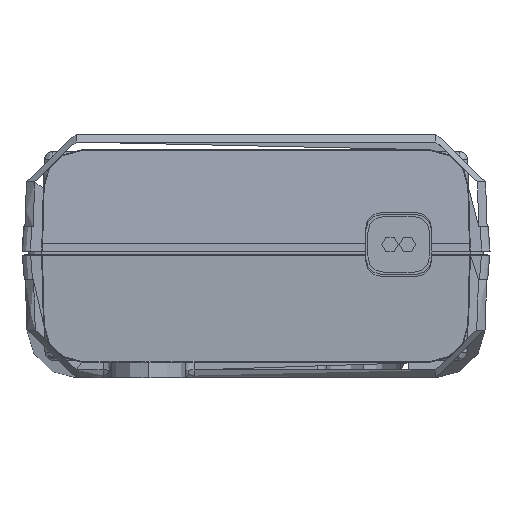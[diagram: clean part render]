
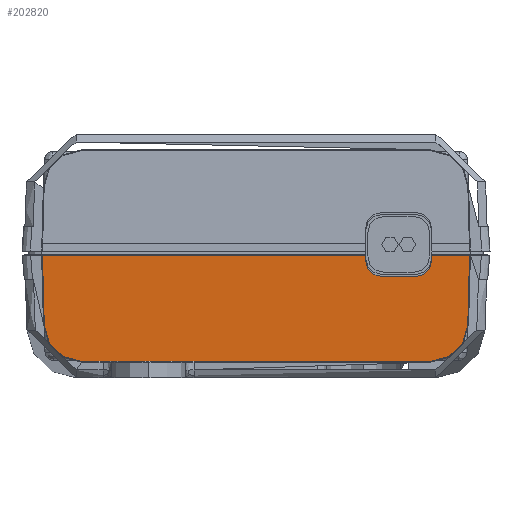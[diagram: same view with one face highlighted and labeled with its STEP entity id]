
A CAD part, left-side view. The second image highlights one B-rep face of the part: STEP entity #202820.
In plain terms, the highlighted planar face has unit normal (-0.999, 0, -0.035).
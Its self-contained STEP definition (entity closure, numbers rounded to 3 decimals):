
#187600=CARTESIAN_POINT('',(45.28,52.802,
13.55));
#187610=VERTEX_POINT('',#187600);
#188010=CARTESIAN_POINT('',(45.234,52.802,14.85));
#188020=VERTEX_POINT('',#188010);
#188050=CARTESIAN_POINT('',(45.753,52.802,0.));
#188060=DIRECTION('',(-0.035,0.,
0.999));
#188070=VECTOR('',#188060,1.);
#188080=LINE('',#188050,#188070);
#188090=EDGE_CURVE('',#187610,#188020,#188080,.T.);
#192510=CARTESIAN_POINT('',(45.683,95.036,2.));
#192520=VERTEX_POINT('',#192510);
#192550=CARTESIAN_POINT('',(45.683,0.,2.));
#192560=DIRECTION('',(0.,-1.,0.));
#192570=VECTOR('',#192560,1.);
#192580=LINE('',#192550,#192570);
#192590=CARTESIAN_POINT('',(45.683,52.804,2.));
#192600=VERTEX_POINT('',#192590);
#192610=EDGE_CURVE('',#192520,#192600,#192580,.T.);
#197720=CARTESIAN_POINT('',(45.234,60.502,14.85));
#197730=VERTEX_POINT('',#197720);
#197760=CARTESIAN_POINT('',(45.234,0.,14.85));
#197770=DIRECTION('',(0.,-1.,0.));
#197780=VECTOR('',#197770,1.);
#197790=LINE('',#197760,#197780);
#197800=CARTESIAN_POINT('',(45.234,99.757,14.85));
#197810=VERTEX_POINT('',#197800);
#197820=EDGE_CURVE('',#197810,#197730,#197790,.T.);
#202120=CARTESIAN_POINT('',(45.28,60.502,
13.55));
#202130=VERTEX_POINT('',#202120);
#202180=CARTESIAN_POINT('',(45.28,0.,13.55));
#202190=DIRECTION('',(0.,-1.,0.));
#202200=VECTOR('',#202190,1.);
#202210=LINE('',#202180,#202200);
#202220=EDGE_CURVE('',#202130,#187610,#202210,.T.);
#202270=CARTESIAN_POINT('',(44.934,80.383,
23.46));
#202280=DIRECTION('',(-0.999,0.,-0.035));
#202290=DIRECTION('',(0.,-1.,0.));
#202300=AXIS2_PLACEMENT_3D('',#202270,#202280,#202290);
#202310=PLANE('',#202300);
#202320=ORIENTED_EDGE('',*,*,#197820,.F.);
#202330=CARTESIAN_POINT('',(45.753,60.502,0.));
#202340=DIRECTION('',(0.035,0.,
-0.999));
#202350=VECTOR('',#202340,1.);
#202360=LINE('',#202330,#202350);
#202370=EDGE_CURVE('',#197730,#202130,#202360,.T.);
#202380=ORIENTED_EDGE('',*,*,#202370,.F.);
#202390=ORIENTED_EDGE('',*,*,#202220,.F.);
#202400=ORIENTED_EDGE('',*,*,#188090,.F.);
#202410=CARTESIAN_POINT('',(45.234,0.,14.85));
#202420=DIRECTION('',(0.,-1.,0.));
#202430=VECTOR('',#202420,1.);
#202440=LINE('',#202410,#202430);
#202450=CARTESIAN_POINT('',(45.234,48.084,14.85));
#202460=VERTEX_POINT('',#202450);
#202470=EDGE_CURVE('',#188020,#202460,#202440,.T.);
#202480=ORIENTED_EDGE('',*,*,#202470,.F.);
#202490=CARTESIAN_POINT('',(45.753,48.473,0.));
#202500=DIRECTION('',(-0.035,-0.026,
0.999));
#202510=VECTOR('',#202500,1.);
#202520=LINE('',#202490,#202510);
#202530=CARTESIAN_POINT('',(45.53,48.303,
6.382));
#202540=VERTEX_POINT('',#202530);
#202550=EDGE_CURVE('',#202540,#202460,#202520,.T.);
#202560=ORIENTED_EDGE('',*,*,#202550,.T.);
#202570=CARTESIAN_POINT('',(45.526,52.804,6.5));
#202580=DIRECTION('',(-0.999,0.,-0.035));
#202590=DIRECTION('',(0.035,0.,-0.999));
#202600=AXIS2_PLACEMENT_3D('',#202570,#202580,#202590);
#202610=CIRCLE('',#202600,4.503);
#202620=EDGE_CURVE('',#192600,#202540,#202610,.T.);
#202630=ORIENTED_EDGE('',*,*,#202620,.T.);
#202640=ORIENTED_EDGE('',*,*,#192610,.T.);
#202650=CARTESIAN_POINT('',(45.526,95.036,6.5));
#202660=DIRECTION('',(-0.999,0.,-0.035));
#202670=DIRECTION('',(0.035,0.,-0.999));
#202680=AXIS2_PLACEMENT_3D('',#202650,#202660,#202670);
#202690=CIRCLE('',#202680,4.503);
#202700=CARTESIAN_POINT('',(45.53,99.538,
6.382));
#202710=VERTEX_POINT('',#202700);
#202720=EDGE_CURVE('',#202710,#192520,#202690,.T.);
#202730=ORIENTED_EDGE('',*,*,#202720,.T.);
#202740=CARTESIAN_POINT('',(45.753,99.368,0.));
#202750=DIRECTION('',(0.035,-0.026,
-0.999));
#202760=VECTOR('',#202750,1.);
#202770=LINE('',#202740,#202760);
#202780=EDGE_CURVE('',#197810,#202710,#202770,.T.);
#202790=ORIENTED_EDGE('',*,*,#202780,.T.);
#202800=EDGE_LOOP('',(#202790,#202730,#202640,#202630,#202560,#202480,
#202400,#202390,#202380,#202320));
#202810=FACE_OUTER_BOUND('',#202800,.T.);
#202820=ADVANCED_FACE('',(#202810),#202310,.T.);
